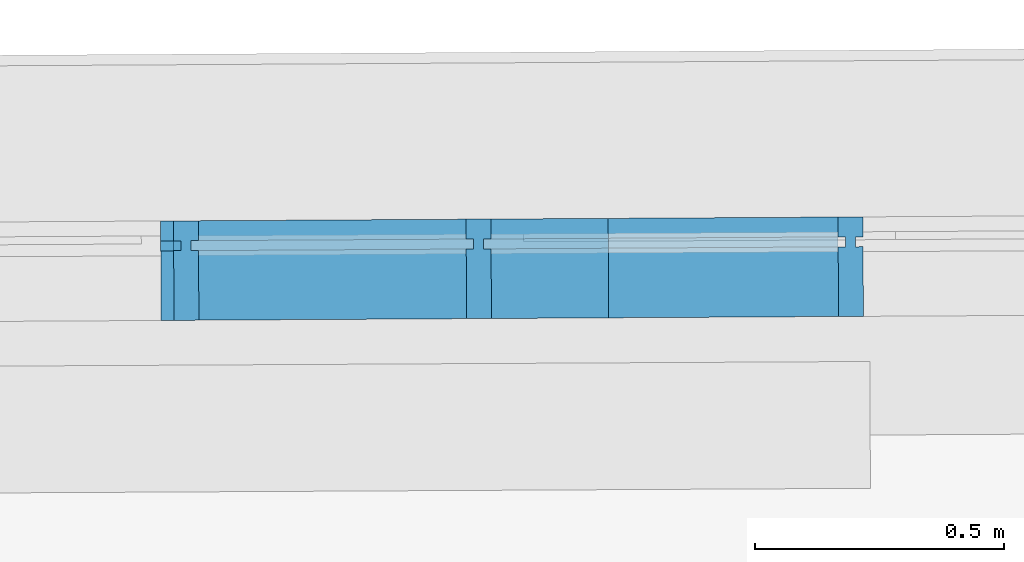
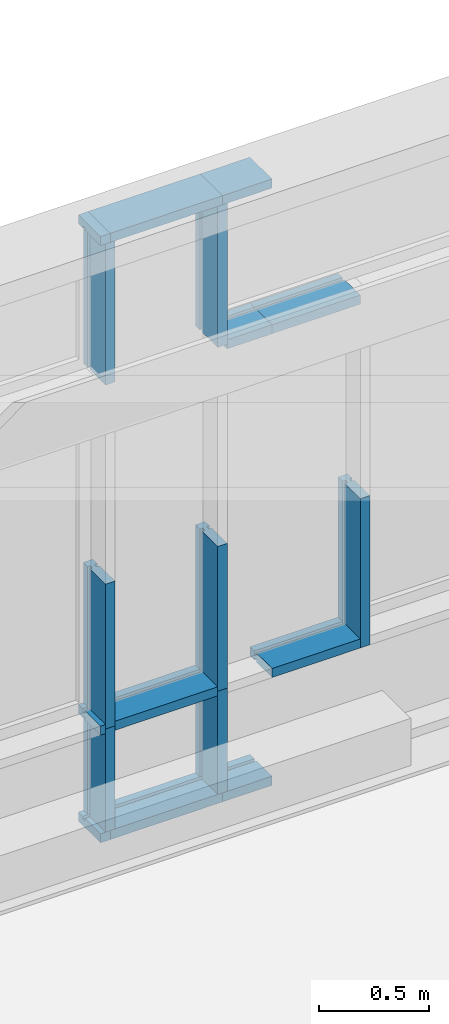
# One storey, part 134 of 158: 18 building element parts, 1 element without a shape of its own.
"""IFC2X3 building model written with IfcOpenShell, lengths in metres."""

from ifc_helpers import new_model, entity, si_unit, converted_unit, derived_unit, money_unit, direction, frame, origin_with_axes, place, context, subcontext, project, spatial, faceted_brep, material, type_object, element, aggregate, save


model = new_model("IFC2X3")

# Units and contexts
model_context = context("Model", 3, precision=1e-05, world=origin_with_axes(), true_north=direction((0.0, 1.0)))
body_context = subcontext(model_context, "Body", "Model", "MODEL_VIEW")
ifc_project = project(units=[si_unit("LENGTHUNIT", "METRE"), si_unit("AREAUNIT", "SQUARE_METRE"), si_unit("VOLUMEUNIT", "CUBIC_METRE"), converted_unit("PLANEANGLEUNIT", "DEGREE", entity("IfcPlaneAngleMeasure", 0.0174532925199), si_unit("PLANEANGLEUNIT", "RADIAN"), dimensions=[0, 0, 0, 0, 0, 0, 0]), money_unit("EUR"), converted_unit("TIMEUNIT", "Year", entity("IfcTimeMeasure", 31556926.0), si_unit("TIMEUNIT", "SECOND"), dimensions=[0, 0, 1, 0, 0, 0, 0]), si_unit("MASSUNIT", "GRAM", prefix="KILO"), si_unit("THERMODYNAMICTEMPERATUREUNIT", "DEGREE_CELSIUS"), si_unit("LUMINOUSINTENSITYUNIT", "LUMEN"), si_unit("ENERGYUNIT", "JOULE", prefix="MEGA"), derived_unit("THERMALCONDUCTANCEUNIT", [(si_unit("POWERUNIT", "WATT"), 1), (si_unit("LENGTHUNIT", "METRE"), -1), (si_unit("THERMODYNAMICTEMPERATUREUNIT", "KELVIN"), -1)]), derived_unit("SPECIFICHEATCAPACITYUNIT", [(si_unit("ENERGYUNIT", "JOULE"), 1), (si_unit("MASSUNIT", "GRAM", prefix="KILO"), -1), (si_unit("THERMODYNAMICTEMPERATUREUNIT", "KELVIN"), -1)]), derived_unit("MASSDENSITYUNIT", [(si_unit("MASSUNIT", "GRAM", prefix="KILO"), 1), (si_unit("VOLUMEUNIT", "CUBIC_METRE"), -1)])], contexts=[model_context])

# Site, building, storey
site_placement = place(None, origin_with_axes())
site = spatial("IfcSite", under=ifc_project, at=site_placement, Name="Gelände", CompositionType="ELEMENT")
building_placement = place(site_placement, origin_with_axes())
building = spatial("IfcBuilding", under=site, at=building_placement, Name="Gebäude", CompositionType="ELEMENT")
storey_placement = place(building_placement, origin_with_axes())
storey = spatial("IfcBuildingStorey", under=building, at=storey_placement, Name="ERDGESCHOSS", CompositionType="ELEMENT", Elevation=0.0)

# Proxy, building element parts
building_element_proxy_type = type_object("IfcBuildingElementProxyType", Name="Fassadentyp", PredefinedType="NOTDEFINED")
proxy_placement = place(storey_placement, frame((-22.8016333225, 53.9701805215, 1.34043904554), z_axis=(0.0, 0.0, 1.0), x_axis=(1.0, 0.0, 0.0)))
proxy = element("IfcBuildingElementProxy", 1, at=proxy_placement, inside=storey, type_object=building_element_proxy_type, Name="Fassade-002")
ifc_material = material(Name="53_Metall, Aluminium")
building_element_part_1_placement = place(proxy_placement, origin_with_axes())
building_element_part_1 = element("IfcBuildingElementPart", 2, at=building_element_part_1_placement, material=ifc_material, Name="53_Metall, Aluminium", context=body_context, shape_type="Brep", body=[
    faceted_brep([(-0.345012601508, -0.0120121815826, 0.0349999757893), (-0.345129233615, 0.00798747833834, 0.0349999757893), (-0.345129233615, 0.00798747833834, 0.0499999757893), (-0.345362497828, 0.0479867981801, 0.0499999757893), (-0.345362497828, 0.0479867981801, -2.42107287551e-08), (-0.344196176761, -0.152009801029, -2.42107287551e-08), (-0.344196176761, -0.152009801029, 0.0499999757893), (-0.345012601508, -0.0120121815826, 0.0499999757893), (-0.294072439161, -0.0117151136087, 0.0349999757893), (-0.294189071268, 0.00828454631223, 0.0349999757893), (-0.294189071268, 0.00828454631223, 0.0499999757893), (-0.294422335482, 0.048283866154, 0.0499999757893), (-0.294422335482, 0.048283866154, -2.42107287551e-08), (-0.293256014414, -0.151712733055, -2.42107287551e-08), (-0.293256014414, -0.151712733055, 0.0499999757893), (-0.294072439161, -0.0117151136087, 0.0499999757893)], [[[0, 1, 2, 3, 4, 5, 6, 7]], [[1, 0, 8, 9]], [[10, 2, 1, 9]], [[2, 10, 11, 3]], [[12, 4, 3, 11]], [[13, 5, 4, 12]], [[14, 6, 5, 13]], [[15, 7, 6, 14]], [[0, 7, 15, 8]], [[8, 15, 14, 13, 12, 11, 10, 9]]]),
])
building_element_part_2_placement = place(proxy_placement, origin_with_axes())
building_element_part_2 = element("IfcBuildingElementPart", 3, at=building_element_part_2_placement, material=ifc_material, Name="53_Metall, Aluminium", context=body_context, shape_type="Brep", body=[
    faceted_brep([(0.284189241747, -0.00834286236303, 0.620000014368), (0.269189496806, -0.00843033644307, 0.620000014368), (0.270005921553, -0.148427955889, 0.620000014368), (0.320005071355, -0.148136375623, 0.620000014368), (0.319188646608, -0.00813875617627, 0.620000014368), (0.304188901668, -0.00822623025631, 0.620000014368), (0.304072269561, 0.0117734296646, 0.620000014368), (0.319072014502, 0.0118609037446, 0.620000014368), (0.318838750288, 0.0518602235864, 0.620000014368), (0.268839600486, 0.0515686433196, 0.620000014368), (0.269072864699, 0.0115693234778, 0.620000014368), (0.28407260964, 0.0116567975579, 0.620000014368), (0.284189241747, -0.00834286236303, 0.0499999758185), (0.269189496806, -0.00843033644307, 0.0499999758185), (0.270005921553, -0.148427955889, 0.0499999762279), (0.320005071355, -0.148136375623, 0.0499999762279), (0.319188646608, -0.00813875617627, 0.0499999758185), (0.304188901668, -0.00822623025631, 0.0499999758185), (0.304072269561, 0.0117734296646, 0.04999997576), (0.319072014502, 0.0118609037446, 0.04999997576), (0.318838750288, 0.0518602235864, 0.0499999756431), (0.268839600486, 0.0515686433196, 0.0499999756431), (0.269072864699, 0.0115693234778, 0.04999997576), (0.28407260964, 0.0116567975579, 0.04999997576)], [[[0, 1, 2, 3, 4, 5, 6, 7, 8, 9, 10, 11]], [[1, 0, 12, 13]], [[1, 13, 14, 2]], [[2, 14, 15, 3]], [[4, 3, 15, 16]], [[4, 16, 17, 5]], [[5, 17, 18, 6]], [[7, 6, 18, 19]], [[19, 20, 8, 7]], [[8, 20, 21, 9]], [[22, 10, 9, 21]], [[11, 10, 22, 23]], [[0, 11, 23, 12]], [[23, 22, 21, 20, 19, 18, 17, 16, 15, 14, 13, 12]]]),
])
building_element_part_3_placement = place(proxy_placement, origin_with_axes())
building_element_part_3 = element("IfcBuildingElementPart", 4, at=building_element_part_3_placement, material=ifc_material, Name="53_Metall, Aluminium", context=body_context, shape_type="Brep", body=[
    faceted_brep([(-0.345012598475, -0.0120121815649, 0.610000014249), (-0.345012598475, -0.0120121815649, 0.595000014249), (-0.344196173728, -0.152009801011, 0.595000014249), (-0.344196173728, -0.152009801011, 0.645000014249), (-0.345012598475, -0.0120121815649, 0.645000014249), (-0.345012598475, -0.0120121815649, 0.630000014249), (-0.345129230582, 0.00798747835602, 0.630000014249), (-0.345129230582, 0.00798747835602, 0.645000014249), (-0.345362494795, 0.0479867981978, 0.645000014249), (-0.345362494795, 0.0479867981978, 0.595000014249), (-0.345129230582, 0.00798747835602, 0.595000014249), (-0.345129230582, 0.00798747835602, 0.610000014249), (-0.319072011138, -0.011860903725, 0.610000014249), (-0.319072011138, -0.011860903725, 0.595000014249), (-0.318255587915, -0.15185852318, 0.595000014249), (-0.318255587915, -0.15185852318, 0.645000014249), (-0.319072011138, -0.011860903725, 0.645000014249), (-0.319072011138, -0.011860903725, 0.630000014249), (-0.319188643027, 0.00813875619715, 0.630000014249), (-0.319188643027, 0.00813875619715, 0.645000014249), (-0.319421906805, 0.0481380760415, 0.645000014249), (-0.319421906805, 0.0481380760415, 0.595000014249), (-0.319188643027, 0.00813875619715, 0.595000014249), (-0.319188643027, 0.00813875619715, 0.610000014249)], [[[0, 1, 2, 3, 4, 5, 6, 7, 8, 9, 10, 11]], [[1, 0, 12, 13]], [[1, 13, 14, 2]], [[2, 14, 15, 3]], [[4, 3, 15, 16]], [[4, 16, 17, 5]], [[5, 17, 18, 6]], [[7, 6, 18, 19]], [[19, 20, 8, 7]], [[8, 20, 21, 9]], [[22, 10, 9, 21]], [[11, 10, 22, 23]], [[0, 11, 23, 12]], [[23, 22, 21, 20, 19, 18, 17, 16, 15, 14, 13, 12]]]),
])
building_element_part_4_placement = place(proxy_placement, origin_with_axes())
building_element_part_4 = element("IfcBuildingElementPart", 5, at=building_element_part_4_placement, material=ifc_material, Name="53_Metall, Aluminium", context=body_context, shape_type="Brep", body=[
    faceted_brep([(-0.269072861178, -0.0115693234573, 0.610000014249), (-0.269072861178, -0.0115693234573, 0.595000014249), (-0.268256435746, -0.1515669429, 0.595000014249), (-0.268256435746, -0.1515669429, 0.645000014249), (-0.269072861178, -0.0115693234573, 0.645000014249), (-0.269072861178, -0.0115693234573, 0.630000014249), (-0.269189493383, 0.00843033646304, 0.630000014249), (-0.269189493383, 0.00843033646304, 0.645000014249), (-0.269422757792, 0.0484296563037, 0.645000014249), (-0.269422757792, 0.0484296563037, 0.595000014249), (-0.269189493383, 0.00843033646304, 0.595000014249), (-0.269189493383, 0.00843033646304, 0.610000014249), (0.269189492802, -0.00843033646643, 0.610000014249), (0.269189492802, -0.00843033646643, 0.595000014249), (0.270005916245, -0.14842795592, 0.595000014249), (0.270005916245, -0.14842795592, 0.645000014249), (0.269189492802, -0.00843033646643, 0.645000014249), (0.269189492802, -0.00843033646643, 0.630000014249), (0.269072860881, 0.0115693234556, 0.630000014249), (0.269072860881, 0.0115693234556, 0.645000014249), (0.26883959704, 0.0515686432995, 0.645000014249), (0.26883959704, 0.0515686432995, 0.595000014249), (0.269072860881, 0.0115693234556, 0.595000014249), (0.269072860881, 0.0115693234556, 0.610000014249)], [[[0, 1, 2, 3, 4, 5, 6, 7, 8, 9, 10, 11]], [[1, 0, 12, 13]], [[1, 13, 14, 2]], [[2, 14, 15, 3]], [[4, 3, 15, 16]], [[4, 16, 17, 5]], [[5, 17, 18, 6]], [[7, 6, 18, 19]], [[19, 20, 8, 7]], [[8, 20, 21, 9]], [[22, 10, 9, 21]], [[11, 10, 22, 23]], [[0, 11, 23, 12]], [[23, 22, 21, 20, 19, 18, 17, 16, 15, 14, 13, 12]]]),
])
building_element_part_5_placement = place(proxy_placement, origin_with_axes())
building_element_part_5 = element("IfcBuildingElementPart", 6, at=building_element_part_5_placement, material=ifc_material, Name="53_Metall, Aluminium", context=body_context, shape_type="Brep", body=[
    faceted_brep([(-0.294072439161, -0.0117151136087, 0.0349999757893), (-0.294189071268, 0.00828454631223, 0.0349999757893), (-0.294189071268, 0.00828454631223, 0.0499999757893), (-0.294422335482, 0.048283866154, 0.0499999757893), (-0.294422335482, 0.048283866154, -2.42107287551e-08), (-0.293256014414, -0.151712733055, -2.42107287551e-08), (-0.293256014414, -0.151712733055, 0.0499999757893), (-0.294072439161, -0.0117151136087, 0.0499999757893), (0.294189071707, -0.00828454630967, 0.0349999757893), (0.294072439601, 0.0117151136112, 0.0349999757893), (0.294072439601, 0.0117151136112, 0.0499999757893), (0.293839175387, 0.051714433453, 0.0499999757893), (0.293839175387, 0.051714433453, -2.42107287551e-08), (0.295005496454, -0.148282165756, -2.42107287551e-08), (0.295005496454, -0.148282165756, 0.0499999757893), (0.294189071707, -0.00828454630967, 0.0499999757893)], [[[0, 1, 2, 3, 4, 5, 6, 7]], [[1, 0, 8, 9]], [[10, 2, 1, 9]], [[2, 10, 11, 3]], [[12, 4, 3, 11]], [[13, 5, 4, 12]], [[14, 6, 5, 13]], [[15, 7, 6, 14]], [[0, 7, 15, 8]], [[8, 15, 14, 13, 12, 11, 10, 9]]]),
])
building_element_part_6_placement = place(proxy_placement, origin_with_axes())
building_element_part_6 = element("IfcBuildingElementPart", 7, at=building_element_part_6_placement, material=ifc_material, Name="53_Metall, Aluminium", context=body_context, shape_type="Brep", body=[
    faceted_brep([(0.294189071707, -0.00828454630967, 0.0349999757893), (0.294072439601, 0.0117151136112, 0.0349999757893), (0.294072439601, 0.0117151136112, 0.0499999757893), (0.293839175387, 0.051714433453, 0.0499999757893), (0.293839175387, 0.051714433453, -2.42107287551e-08), (0.295005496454, -0.148282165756, -2.42107287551e-08), (0.295005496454, -0.148282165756, 0.0499999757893), (0.294189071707, -0.00828454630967, 0.0499999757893), (0.55497209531, -0.00676373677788, 0.0349999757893), (0.554855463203, 0.013235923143, 0.0349999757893), (0.554855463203, 0.013235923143, 0.0499999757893), (0.55462219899, 0.0532352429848, 0.0499999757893), (0.55462219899, 0.0532352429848, -2.42107287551e-08), (0.555788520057, -0.146761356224, -2.42107287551e-08), (0.555788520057, -0.146761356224, 0.0499999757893), (0.55497209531, -0.00676373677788, 0.0499999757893)], [[[0, 1, 2, 3, 4, 5, 6, 7]], [[1, 0, 8, 9]], [[10, 2, 1, 9]], [[2, 10, 11, 3]], [[12, 4, 3, 11]], [[13, 5, 4, 12]], [[14, 6, 5, 13]], [[15, 7, 6, 14]], [[0, 7, 15, 8]], [[8, 15, 14, 13, 12, 11, 10, 9]]]),
])
building_element_part_7_placement = place(proxy_placement, origin_with_axes())
building_element_part_7 = element("IfcBuildingElementPart", 8, at=building_element_part_7_placement, material=ifc_material, Name="53_Metall, Aluminium", context=body_context, shape_type="Brep", body=[
    faceted_brep([(0.554972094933, -0.00676373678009, 0.610000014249), (0.554972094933, -0.00676373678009, 0.595000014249), (0.55578851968, -0.146761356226, 0.595000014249), (0.55578851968, -0.146761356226, 0.645000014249), (0.554972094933, -0.00676373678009, 0.645000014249), (0.554972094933, -0.00676373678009, 0.630000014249), (0.554855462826, 0.0132359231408, 0.630000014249), (0.554855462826, 0.0132359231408, 0.645000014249), (0.554622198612, 0.0532352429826, 0.645000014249), (0.554622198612, 0.0532352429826, 0.595000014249), (0.554855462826, 0.0132359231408, 0.595000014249), (0.554855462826, 0.0132359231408, 0.610000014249), (1.01707707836, -0.00406887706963, 0.610000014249), (1.01707707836, -0.00406887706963, 0.595000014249), (1.01789350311, -0.144066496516, 0.595000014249), (1.01789350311, -0.144066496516, 0.645000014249), (1.01707707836, -0.00406887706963, 0.645000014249), (1.01707707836, -0.00406887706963, 0.630000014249), (1.01696044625, 0.0159307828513, 0.630000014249), (1.01696044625, 0.0159307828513, 0.645000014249), (1.01672718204, 0.0559301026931, 0.645000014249), (1.01672718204, 0.0559301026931, 0.595000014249), (1.01696044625, 0.0159307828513, 0.595000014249), (1.01696044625, 0.0159307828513, 0.610000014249)], [[[0, 1, 2, 3, 4, 5, 6, 7, 8, 9, 10, 11]], [[1, 0, 12, 13]], [[1, 13, 14, 2]], [[2, 14, 15, 3]], [[4, 3, 15, 16]], [[4, 16, 17, 5]], [[5, 17, 18, 6]], [[7, 6, 18, 19]], [[19, 20, 8, 7]], [[8, 20, 21, 9]], [[22, 10, 9, 21]], [[11, 10, 22, 23]], [[0, 11, 23, 12]], [[23, 22, 21, 20, 19, 18, 17, 16, 15, 14, 13, 12]]]),
])
building_element_part_8_placement = place(proxy_placement, origin_with_axes())
building_element_part_8 = element("IfcBuildingElementPart", 9, at=building_element_part_8_placement, material=ifc_material, Name="53_Metall, Aluminium", context=body_context, shape_type="Brep", body=[
    faceted_brep([(-0.304072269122, -0.011773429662, 0.620000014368), (-0.319072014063, -0.0118609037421, 0.620000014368), (-0.318255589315, -0.151858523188, 0.620000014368), (-0.268256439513, -0.151566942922, 0.620000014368), (-0.26907286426, -0.0115693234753, 0.620000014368), (-0.284072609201, -0.0116567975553, 0.620000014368), (-0.284189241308, 0.00834286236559, 0.620000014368), (-0.269189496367, 0.00843033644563, 0.620000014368), (-0.26942276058, 0.0484296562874, 0.620000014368), (-0.319421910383, 0.0481380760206, 0.620000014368), (-0.319188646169, 0.00813875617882, 0.620000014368), (-0.304188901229, 0.00822623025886, 0.620000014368), (-0.304072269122, -0.011773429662, 0.0499999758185), (-0.319072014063, -0.0118609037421, 0.0499999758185), (-0.318255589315, -0.151858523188, 0.0499999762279), (-0.268256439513, -0.151566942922, 0.0499999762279), (-0.26907286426, -0.0115693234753, 0.0499999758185), (-0.284072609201, -0.0116567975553, 0.0499999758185), (-0.284189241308, 0.00834286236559, 0.04999997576), (-0.269189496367, 0.00843033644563, 0.04999997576), (-0.26942276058, 0.0484296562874, 0.0499999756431), (-0.319421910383, 0.0481380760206, 0.0499999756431), (-0.319188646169, 0.00813875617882, 0.04999997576), (-0.304188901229, 0.00822623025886, 0.04999997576)], [[[0, 1, 2, 3, 4, 5, 6, 7, 8, 9, 10, 11]], [[1, 0, 12, 13]], [[1, 13, 14, 2]], [[2, 14, 15, 3]], [[4, 3, 15, 16]], [[4, 16, 17, 5]], [[5, 17, 18, 6]], [[7, 6, 18, 19]], [[19, 20, 8, 7]], [[8, 20, 21, 9]], [[22, 10, 9, 21]], [[11, 10, 22, 23]], [[0, 11, 23, 12]], [[23, 22, 21, 20, 19, 18, 17, 16, 15, 14, 13, 12]]]),
])
building_element_part_9_placement = place(proxy_placement, origin_with_axes())
building_element_part_9 = element("IfcBuildingElementPart", 10, at=building_element_part_9_placement, material=ifc_material, Name="53_Metall, Aluminium", context=body_context, shape_type="Brep", body=[
    faceted_brep([(-0.304072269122, -0.011773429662, 3.29999992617), (-0.319072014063, -0.0118609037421, 3.29999992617), (-0.318255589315, -0.151858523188, 3.29999992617), (-0.268256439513, -0.151566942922, 3.29999992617), (-0.26907286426, -0.0115693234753, 3.29999992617), (-0.284072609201, -0.0116567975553, 3.29999992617), (-0.284189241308, 0.00834286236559, 3.29999992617), (-0.269189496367, 0.00843033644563, 3.29999992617), (-0.26942276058, 0.0484296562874, 3.29999992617), (-0.319421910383, 0.0481380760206, 3.29999992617), (-0.319188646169, 0.00813875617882, 3.29999992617), (-0.304188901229, 0.00822623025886, 3.29999992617), (-0.304072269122, -0.011773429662, 2.5200000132), (-0.319072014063, -0.0118609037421, 2.5200000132), (-0.318255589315, -0.151858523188, 2.5200000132), (-0.268256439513, -0.151566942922, 2.5200000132), (-0.26907286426, -0.0115693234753, 2.5200000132), (-0.284072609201, -0.0116567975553, 2.5200000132), (-0.284189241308, 0.00834286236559, 2.5200000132), (-0.269189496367, 0.00843033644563, 2.5200000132), (-0.26942276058, 0.0484296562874, 2.5200000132), (-0.319421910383, 0.0481380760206, 2.5200000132), (-0.319188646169, 0.00813875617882, 2.5200000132), (-0.304188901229, 0.00822623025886, 2.5200000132)], [[[0, 1, 2, 3, 4, 5, 6, 7, 8, 9, 10, 11]], [[1, 0, 12, 13]], [[1, 13, 14, 2]], [[3, 2, 14, 15]], [[4, 3, 15, 16]], [[4, 16, 17, 5]], [[5, 17, 18, 6]], [[7, 6, 18, 19]], [[19, 20, 8, 7]], [[9, 8, 20, 21]], [[22, 10, 9, 21]], [[11, 10, 22, 23]], [[0, 11, 23, 12]], [[23, 22, 21, 20, 19, 18, 17, 16, 15, 14, 13, 12]]]),
])
building_element_part_10_placement = place(proxy_placement, origin_with_axes())
building_element_part_10 = element("IfcBuildingElementPart", 11, at=building_element_part_10_placement, material=ifc_material, Name="53_Metall, Aluminium", context=body_context, shape_type="Brep", body=[
    faceted_brep([(-0.294072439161, -0.0117151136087, 3.31499988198), (-0.294072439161, -0.0117151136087, 3.29999988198), (-0.293256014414, -0.151712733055, 3.29999988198), (-0.293256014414, -0.151712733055, 3.34999988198), (-0.294422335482, 0.048283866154, 3.34999988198), (-0.294422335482, 0.048283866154, 3.29999988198), (-0.294189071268, 0.00828454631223, 3.29999988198), (-0.294189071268, 0.00828454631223, 3.31499988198), (0.294189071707, -0.00828454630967, 3.31499988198), (0.294189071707, -0.00828454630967, 3.29999988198), (0.295005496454, -0.148282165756, 3.29999988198), (0.295005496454, -0.148282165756, 3.34999988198), (0.293839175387, 0.051714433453, 3.34999988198), (0.293839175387, 0.051714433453, 3.29999988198), (0.294072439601, 0.0117151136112, 3.29999988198), (0.294072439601, 0.0117151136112, 3.31499988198)], [[[0, 1, 2, 3, 4, 5, 6, 7]], [[0, 8, 9, 1]], [[9, 10, 2, 1]], [[10, 11, 3, 2]], [[11, 12, 4, 3]], [[12, 13, 5, 4]], [[6, 5, 13, 14]], [[14, 15, 7, 6]], [[7, 15, 8, 0]], [[8, 15, 14, 13, 12, 11, 10, 9]]]),
])
building_element_part_11_placement = place(proxy_placement, origin_with_axes())
building_element_part_11 = element("IfcBuildingElementPart", 12, at=building_element_part_11_placement, material=ifc_material, Name="53_Metall, Aluminium", context=body_context, shape_type="Brep", body=[
    faceted_brep([(1.0320768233, -0.0039814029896, 1.42000001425), (1.01707707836, -0.00406887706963, 1.42000001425), (1.01789350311, -0.144066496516, 1.42000001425), (1.06789265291, -0.143774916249, 1.42000001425), (1.06707622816, -0.00377729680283, 1.42000001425), (1.05207648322, -0.00386477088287, 1.42000001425), (1.05195985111, 0.016134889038, 1.42000001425), (1.06695959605, 0.0162223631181, 1.42000001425), (1.06672633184, 0.0562216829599, 1.42000001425), (1.01672718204, 0.0559301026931, 1.42000001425), (1.01696044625, 0.0159307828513, 1.42000001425), (1.03196019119, 0.0160182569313, 1.42000001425), (1.0320768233, -0.0039814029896, 0.595000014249), (1.01707707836, -0.00406887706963, 0.595000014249), (1.01789350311, -0.144066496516, 0.595000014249), (1.06789265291, -0.143774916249, 0.595000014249), (1.06707622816, -0.00377729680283, 0.595000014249), (1.05207648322, -0.00386477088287, 0.595000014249), (1.05195985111, 0.016134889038, 0.595000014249), (1.06695959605, 0.0162223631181, 0.595000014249), (1.06672633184, 0.0562216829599, 0.595000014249), (1.01672718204, 0.0559301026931, 0.595000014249), (1.01696044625, 0.0159307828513, 0.595000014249), (1.03196019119, 0.0160182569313, 0.595000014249)], [[[0, 1, 2, 3, 4, 5, 6, 7, 8, 9, 10, 11]], [[1, 0, 12, 13]], [[1, 13, 14, 2]], [[3, 2, 14, 15]], [[4, 3, 15, 16]], [[4, 16, 17, 5]], [[5, 17, 18, 6]], [[7, 6, 18, 19]], [[19, 20, 8, 7]], [[9, 8, 20, 21]], [[22, 10, 9, 21]], [[11, 10, 22, 23]], [[0, 11, 23, 12]], [[23, 22, 21, 20, 19, 18, 17, 16, 15, 14, 13, 12]]]),
])
building_element_part_12_placement = place(proxy_placement, origin_with_axes())
building_element_part_12 = element("IfcBuildingElementPart", 13, at=building_element_part_12_placement, material=ifc_material, Name="53_Metall, Aluminium", context=body_context, shape_type="Brep", body=[
    faceted_brep([(-0.345012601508, -0.0120121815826, 3.31499988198), (-0.345012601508, -0.0120121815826, 3.29999988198), (-0.344196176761, -0.152009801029, 3.29999988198), (-0.344196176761, -0.152009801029, 3.34999988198), (-0.345362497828, 0.0479867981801, 3.34999988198), (-0.345362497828, 0.0479867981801, 3.29999988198), (-0.345129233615, 0.00798747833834, 3.29999988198), (-0.345129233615, 0.00798747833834, 3.31499988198), (-0.294072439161, -0.0117151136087, 3.31499988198), (-0.294072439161, -0.0117151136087, 3.29999988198), (-0.293256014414, -0.151712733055, 3.29999988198), (-0.293256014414, -0.151712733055, 3.34999988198), (-0.294422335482, 0.048283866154, 3.34999988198), (-0.294422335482, 0.048283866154, 3.29999988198), (-0.294189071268, 0.00828454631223, 3.29999988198), (-0.294189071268, 0.00828454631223, 3.31499988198)], [[[0, 1, 2, 3, 4, 5, 6, 7]], [[0, 8, 9, 1]], [[9, 10, 2, 1]], [[10, 11, 3, 2]], [[11, 12, 4, 3]], [[12, 13, 5, 4]], [[6, 5, 13, 14]], [[14, 15, 7, 6]], [[7, 15, 8, 0]], [[8, 15, 14, 13, 12, 11, 10, 9]]]),
])
building_element_part_13_placement = place(proxy_placement, origin_with_axes())
building_element_part_13 = element("IfcBuildingElementPart", 14, at=building_element_part_13_placement, material=ifc_material, Name="53_Metall, Aluminium", context=body_context, shape_type="Brep", body=[
    faceted_brep([(-0.304072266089, -0.0117734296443, 1.4200000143), (-0.319072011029, -0.0118609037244, 1.4200000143), (-0.318255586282, -0.151858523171, 1.4200000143), (-0.26825643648, -0.151566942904, 1.4200000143), (-0.269072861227, -0.0115693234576, 1.4200000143), (-0.284072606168, -0.0116567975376, 1.4200000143), (-0.284189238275, 0.00834286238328, 1.4200000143), (-0.269189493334, 0.00843033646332, 1.4200000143), (-0.269422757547, 0.0484296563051, 1.4200000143), (-0.31942190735, 0.0481380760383, 1.4200000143), (-0.319188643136, 0.00813875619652, 1.4200000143), (-0.304188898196, 0.00822623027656, 1.4200000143), (-0.304072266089, -0.0117734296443, 0.620000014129), (-0.319072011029, -0.0118609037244, 0.620000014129), (-0.318255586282, -0.151858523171, 0.620000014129), (-0.26825643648, -0.151566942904, 0.620000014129), (-0.269072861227, -0.0115693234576, 0.620000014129), (-0.284072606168, -0.0116567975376, 0.620000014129), (-0.284189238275, 0.00834286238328, 0.620000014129), (-0.269189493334, 0.00843033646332, 0.620000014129), (-0.269422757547, 0.0484296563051, 0.620000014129), (-0.31942190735, 0.0481380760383, 0.620000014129), (-0.319188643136, 0.00813875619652, 0.620000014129), (-0.304188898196, 0.00822623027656, 0.620000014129)], [[[0, 1, 2, 3, 4, 5, 6, 7, 8, 9, 10, 11]], [[1, 0, 12, 13]], [[1, 13, 14, 2]], [[3, 2, 14, 15]], [[4, 3, 15, 16]], [[4, 16, 17, 5]], [[5, 17, 18, 6]], [[7, 6, 18, 19]], [[19, 20, 8, 7]], [[9, 8, 20, 21]], [[22, 10, 9, 21]], [[11, 10, 22, 23]], [[0, 11, 23, 12]], [[23, 22, 21, 20, 19, 18, 17, 16, 15, 14, 13, 12]]]),
])
building_element_part_14_placement = place(proxy_placement, origin_with_axes())
building_element_part_14 = element("IfcBuildingElementPart", 15, at=building_element_part_14_placement, material=ifc_material, Name="53_Metall, Aluminium", context=body_context, shape_type="Brep", body=[
    faceted_brep([(0.554972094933, -0.00676373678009, 2.51000001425), (0.554972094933, -0.00676373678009, 2.49500001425), (0.55578851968, -0.146761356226, 2.49500001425), (0.55578851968, -0.146761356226, 2.54500001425), (0.554972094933, -0.00676373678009, 2.54500001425), (0.554972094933, -0.00676373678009, 2.53000001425), (0.554855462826, 0.0132359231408, 2.53000001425), (0.554855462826, 0.0132359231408, 2.54500001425), (0.554622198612, 0.0532352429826, 2.54500001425), (0.554622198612, 0.0532352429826, 2.49500001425), (0.554855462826, 0.0132359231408, 2.49500001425), (0.554855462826, 0.0132359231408, 2.51000001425), (1.01707707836, -0.00406887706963, 2.51000001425), (1.01707707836, -0.00406887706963, 2.49500001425), (1.01789350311, -0.144066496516, 2.49500001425), (1.01789350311, -0.144066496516, 2.54500001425), (1.01707707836, -0.00406887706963, 2.54500001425), (1.01707707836, -0.00406887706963, 2.53000001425), (1.01696044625, 0.0159307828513, 2.53000001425), (1.01696044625, 0.0159307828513, 2.54500001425), (1.01672718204, 0.0559301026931, 2.54500001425), (1.01672718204, 0.0559301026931, 2.49500001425), (1.01696044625, 0.0159307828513, 2.49500001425), (1.01696044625, 0.0159307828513, 2.51000001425)], [[[0, 1, 2, 3, 4, 5, 6, 7, 8, 9, 10, 11]], [[1, 0, 12, 13]], [[1, 13, 14, 2]], [[2, 14, 15, 3]], [[4, 3, 15, 16]], [[4, 16, 17, 5]], [[5, 17, 18, 6]], [[7, 6, 18, 19]], [[19, 20, 8, 7]], [[8, 20, 21, 9]], [[22, 10, 9, 21]], [[11, 10, 22, 23]], [[0, 11, 23, 12]], [[23, 22, 21, 20, 19, 18, 17, 16, 15, 14, 13, 12]]]),
])
building_element_part_15_placement = place(proxy_placement, origin_with_axes())
building_element_part_15 = element("IfcBuildingElementPart", 16, at=building_element_part_15_placement, material=ifc_material, Name="53_Metall, Aluminium", context=body_context, shape_type="Brep", body=[
    faceted_brep([(0.284189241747, -0.00834286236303, 3.29999992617), (0.269189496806, -0.00843033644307, 3.29999992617), (0.270005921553, -0.148427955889, 3.29999992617), (0.320005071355, -0.148136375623, 3.29999992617), (0.319188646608, -0.00813875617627, 3.29999992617), (0.304188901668, -0.00822623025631, 3.29999992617), (0.304072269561, 0.0117734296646, 3.29999992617), (0.319072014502, 0.0118609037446, 3.29999992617), (0.318838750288, 0.0518602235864, 3.29999992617), (0.268839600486, 0.0515686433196, 3.29999992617), (0.269072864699, 0.0115693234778, 3.29999992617), (0.28407260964, 0.0116567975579, 3.29999992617), (0.284189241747, -0.00834286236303, 2.5200000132), (0.269189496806, -0.00843033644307, 2.5200000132), (0.270005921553, -0.148427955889, 2.5200000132), (0.320005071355, -0.148136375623, 2.5200000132), (0.319188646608, -0.00813875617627, 2.5200000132), (0.304188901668, -0.00822623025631, 2.5200000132), (0.304072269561, 0.0117734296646, 2.5200000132), (0.319072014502, 0.0118609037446, 2.5200000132), (0.318838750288, 0.0518602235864, 2.5200000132), (0.268839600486, 0.0515686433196, 2.5200000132), (0.269072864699, 0.0115693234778, 2.5200000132), (0.28407260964, 0.0116567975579, 2.5200000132)], [[[0, 1, 2, 3, 4, 5, 6, 7, 8, 9, 10, 11]], [[1, 0, 12, 13]], [[1, 13, 14, 2]], [[3, 2, 14, 15]], [[4, 3, 15, 16]], [[4, 16, 17, 5]], [[5, 17, 18, 6]], [[7, 6, 18, 19]], [[19, 20, 8, 7]], [[9, 8, 20, 21]], [[22, 10, 9, 21]], [[11, 10, 22, 23]], [[0, 11, 23, 12]], [[23, 22, 21, 20, 19, 18, 17, 16, 15, 14, 13, 12]]]),
])
building_element_part_16_placement = place(proxy_placement, origin_with_axes())
building_element_part_16 = element("IfcBuildingElementPart", 17, at=building_element_part_16_placement, material=ifc_material, Name="53_Metall, Aluminium", context=body_context, shape_type="Brep", body=[
    faceted_brep([(0.319188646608, -0.00813875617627, 2.51000001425), (0.319188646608, -0.00813875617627, 2.49500001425), (0.320005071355, -0.148136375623, 2.49500001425), (0.320005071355, -0.148136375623, 2.54500001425), (0.319188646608, -0.00813875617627, 2.54500001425), (0.319188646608, -0.00813875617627, 2.53000001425), (0.319072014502, 0.0118609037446, 2.53000001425), (0.319072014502, 0.0118609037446, 2.54500001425), (0.318838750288, 0.0518602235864, 2.54500001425), (0.318838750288, 0.0518602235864, 2.49500001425), (0.319072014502, 0.0118609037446, 2.49500001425), (0.319072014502, 0.0118609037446, 2.51000001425), (0.554972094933, -0.00676373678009, 2.51000001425), (0.554972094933, -0.00676373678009, 2.49500001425), (0.55578851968, -0.146761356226, 2.49500001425), (0.55578851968, -0.146761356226, 2.54500001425), (0.554972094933, -0.00676373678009, 2.54500001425), (0.554972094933, -0.00676373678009, 2.53000001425), (0.554855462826, 0.0132359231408, 2.53000001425), (0.554855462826, 0.0132359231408, 2.54500001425), (0.554622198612, 0.0532352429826, 2.54500001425), (0.554622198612, 0.0532352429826, 2.49500001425), (0.554855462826, 0.0132359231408, 2.49500001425), (0.554855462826, 0.0132359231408, 2.51000001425)], [[[0, 1, 2, 3, 4, 5, 6, 7, 8, 9, 10, 11]], [[1, 0, 12, 13]], [[1, 13, 14, 2]], [[3, 2, 14, 15]], [[4, 3, 15, 16]], [[4, 16, 17, 5]], [[5, 17, 18, 6]], [[7, 6, 18, 19]], [[19, 20, 8, 7]], [[9, 8, 20, 21]], [[22, 10, 9, 21]], [[11, 10, 22, 23]], [[0, 11, 23, 12]], [[23, 22, 21, 20, 19, 18, 17, 16, 15, 14, 13, 12]]]),
])
building_element_part_17_placement = place(proxy_placement, origin_with_axes())
building_element_part_17 = element("IfcBuildingElementPart", 18, at=building_element_part_17_placement, material=ifc_material, Name="53_Metall, Aluminium", context=body_context, shape_type="Brep", body=[
    faceted_brep([(0.294189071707, -0.00828454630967, 3.31499988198), (0.294189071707, -0.00828454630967, 3.29999988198), (0.295005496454, -0.148282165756, 3.29999988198), (0.295005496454, -0.148282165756, 3.34999988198), (0.293839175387, 0.051714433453, 3.34999988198), (0.293839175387, 0.051714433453, 3.29999988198), (0.294072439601, 0.0117151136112, 3.29999988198), (0.294072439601, 0.0117151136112, 3.31499988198), (0.554972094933, -0.00676373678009, 3.31499988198), (0.554972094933, -0.00676373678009, 3.29999988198), (0.55578851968, -0.146761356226, 3.29999988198), (0.55578851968, -0.146761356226, 3.34999988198), (0.554622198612, 0.0532352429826, 3.34999988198), (0.554622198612, 0.0532352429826, 3.29999988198), (0.554855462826, 0.0132359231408, 3.29999988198), (0.554855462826, 0.0132359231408, 3.31499988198)], [[[0, 1, 2, 3, 4, 5, 6, 7]], [[0, 8, 9, 1]], [[9, 10, 2, 1]], [[10, 11, 3, 2]], [[11, 12, 4, 3]], [[12, 13, 5, 4]], [[6, 5, 13, 14]], [[14, 15, 7, 6]], [[7, 15, 8, 0]], [[8, 15, 14, 13, 12, 11, 10, 9]]]),
])
building_element_part_18_placement = place(proxy_placement, origin_with_axes())
building_element_part_18 = element("IfcBuildingElementPart", 19, at=building_element_part_18_placement, material=ifc_material, Name="53_Metall, Aluminium", context=body_context, shape_type="Brep", body=[
    faceted_brep([(0.284189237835, -0.00834286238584, 1.4200000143), (0.269189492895, -0.00843033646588, 1.4200000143), (0.270005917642, -0.148427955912, 1.4200000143), (0.320005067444, -0.148136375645, 1.4200000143), (0.319188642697, -0.00813875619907, 1.4200000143), (0.304188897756, -0.00822623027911, 1.4200000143), (0.30407226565, 0.0117734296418, 1.4200000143), (0.31907201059, 0.0118609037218, 1.4200000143), (0.318838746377, 0.0518602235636, 1.4200000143), (0.268839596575, 0.0515686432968, 1.4200000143), (0.269072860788, 0.011569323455, 1.4200000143), (0.284072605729, 0.0116567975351, 1.4200000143), (0.284189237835, -0.00834286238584, 0.620000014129), (0.269189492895, -0.00843033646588, 0.620000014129), (0.270005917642, -0.148427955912, 0.620000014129), (0.320005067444, -0.148136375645, 0.620000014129), (0.319188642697, -0.00813875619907, 0.620000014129), (0.304188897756, -0.00822623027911, 0.620000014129), (0.30407226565, 0.0117734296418, 0.620000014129), (0.31907201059, 0.0118609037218, 0.620000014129), (0.318838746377, 0.0518602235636, 0.620000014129), (0.268839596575, 0.0515686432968, 0.620000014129), (0.269072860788, 0.011569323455, 0.620000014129), (0.284072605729, 0.0116567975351, 0.620000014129)], [[[0, 1, 2, 3, 4, 5, 6, 7, 8, 9, 10, 11]], [[1, 0, 12, 13]], [[1, 13, 14, 2]], [[3, 2, 14, 15]], [[4, 3, 15, 16]], [[4, 16, 17, 5]], [[5, 17, 18, 6]], [[7, 6, 18, 19]], [[19, 20, 8, 7]], [[9, 8, 20, 21]], [[22, 10, 9, 21]], [[11, 10, 22, 23]], [[0, 11, 23, 12]], [[23, 22, 21, 20, 19, 18, 17, 16, 15, 14, 13, 12]]]),
])
aggregate(proxy, [building_element_part_1, building_element_part_2, building_element_part_3, building_element_part_4, building_element_part_5, building_element_part_6, building_element_part_7, building_element_part_8, building_element_part_9, building_element_part_10, building_element_part_11, building_element_part_12, building_element_part_13, building_element_part_14, building_element_part_15, building_element_part_16, building_element_part_17, building_element_part_18])

save(model, "model.ifc")
